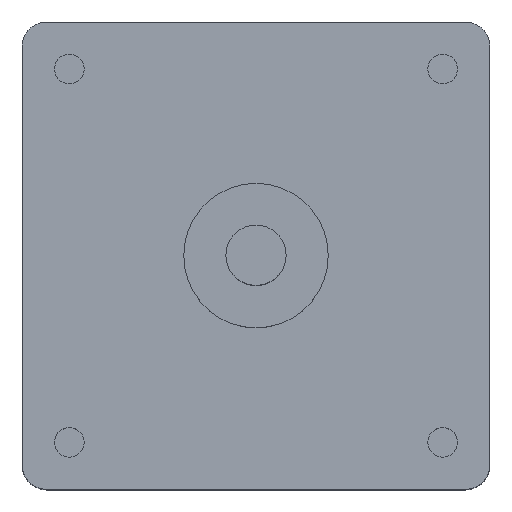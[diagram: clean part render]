
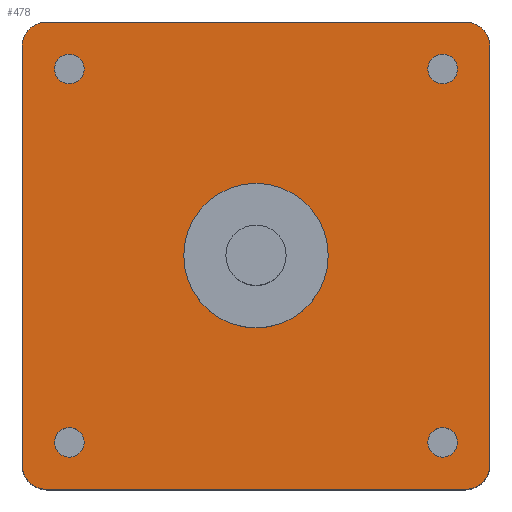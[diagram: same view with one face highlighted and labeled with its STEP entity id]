
A CAD part, top view. The second image highlights one B-rep face of the part: STEP entity #478.
In plain terms, the highlighted planar face has unit normal (0, 0, 1).
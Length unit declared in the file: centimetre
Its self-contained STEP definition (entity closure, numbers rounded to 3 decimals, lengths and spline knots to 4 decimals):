
#174=VERTEX_POINT('',#1709);
#176=VERTEX_POINT('',#1715);
#178=VERTEX_POINT('',#1721);
#180=VERTEX_POINT('',#1727);
#184=VERTEX_POINT('',#1739);
#201=VERTEX_POINT('',#1791);
#202=VERTEX_POINT('',#1793);
#203=VERTEX_POINT('',#1797);
#204=VERTEX_POINT('',#1801);
#205=VERTEX_POINT('',#1805);
#206=VERTEX_POINT('',#1810);
#207=VERTEX_POINT('',#1814);
#208=VERTEX_POINT('',#1818);
#210=EDGE_CURVE('',#174,#174,#594,.T.);
#212=EDGE_CURVE('',#176,#176,#596,.T.);
#214=EDGE_CURVE('',#178,#178,#598,.T.);
#216=EDGE_CURVE('',#180,#180,#600,.T.);
#220=EDGE_CURVE('',#184,#184,#604,.T.);
#246=EDGE_CURVE('',#201,#202,#621,.T.);
#249=EDGE_CURVE('',#203,#201,#670,.T.);
#251=EDGE_CURVE('',#204,#203,#622,.T.);
#253=EDGE_CURVE('',#205,#204,#673,.T.);
#254=EDGE_CURVE('',#202,#206,#674,.T.);
#256=EDGE_CURVE('',#206,#207,#623,.T.);
#258=EDGE_CURVE('',#207,#208,#677,.T.);
#260=EDGE_CURVE('',#208,#205,#624,.T.);
#352=ORIENTED_EDGE('',*,*,#210,.T.);
#353=ORIENTED_EDGE('',*,*,#212,.T.);
#354=ORIENTED_EDGE('',*,*,#214,.T.);
#355=ORIENTED_EDGE('',*,*,#216,.T.);
#356=ORIENTED_EDGE('',*,*,#220,.T.);
#357=ORIENTED_EDGE('',*,*,#251,.F.);
#358=ORIENTED_EDGE('',*,*,#253,.F.);
#359=ORIENTED_EDGE('',*,*,#260,.F.);
#360=ORIENTED_EDGE('',*,*,#258,.F.);
#361=ORIENTED_EDGE('',*,*,#256,.F.);
#362=ORIENTED_EDGE('',*,*,#254,.F.);
#363=ORIENTED_EDGE('',*,*,#246,.F.);
#364=ORIENTED_EDGE('',*,*,#249,.F.);
#401=EDGE_LOOP('',(#352));
#402=EDGE_LOOP('',(#353));
#403=EDGE_LOOP('',(#354));
#404=EDGE_LOOP('',(#355));
#405=EDGE_LOOP('',(#356));
#406=EDGE_LOOP('',(#357,#358,#359,#360,#361,#362,#363,#364));
#443=FACE_BOUND('',#401,.T.);
#444=FACE_BOUND('',#402,.T.);
#445=FACE_BOUND('',#403,.T.);
#446=FACE_BOUND('',#404,.T.);
#447=FACE_BOUND('',#405,.T.);
#448=FACE_BOUND('',#406,.T.);
#478=ADVANCED_FACE('',(#443,#444,#445,#446,#447,#448),#1324,.T.);
#594=CIRCLE('',#1189,0.123);
#596=CIRCLE('',#1193,0.123);
#598=CIRCLE('',#1197,0.123);
#600=CIRCLE('',#1201,0.123);
#604=CIRCLE('',#1209,0.6);
#621=CIRCLE('',#1236,0.2);
#622=CIRCLE('',#1239,0.2);
#623=CIRCLE('',#1244,0.2);
#624=CIRCLE('',#1247,0.2);
#670=LINE('',#1798,#1296);
#673=LINE('',#1806,#1299);
#674=LINE('',#1809,#1300);
#677=LINE('',#1817,#1303);
#1189=AXIS2_PLACEMENT_3D('',#1708,#1438,#1439);
#1193=AXIS2_PLACEMENT_3D('',#1714,#1445,#1446);
#1197=AXIS2_PLACEMENT_3D('',#1720,#1452,#1453);
#1201=AXIS2_PLACEMENT_3D('',#1726,#1459,#1460);
#1209=AXIS2_PLACEMENT_3D('',#1738,#1473,#1474);
#1236=AXIS2_PLACEMENT_3D('',#1792,#1531,#1532);
#1239=AXIS2_PLACEMENT_3D('',#1802,#1540,#1541);
#1244=AXIS2_PLACEMENT_3D('',#1813,#1551,#1552);
#1247=AXIS2_PLACEMENT_3D('',#1821,#1559,#1560);
#1248=AXIS2_PLACEMENT_3D('',#1822,#1561,$);
#1296=VECTOR('',#1536,1.);
#1299=VECTOR('',#1544,1.);
#1300=VECTOR('',#1547,1.);
#1303=VECTOR('',#1555,1.);
#1324=PLANE('',#1248);
#1438=DIRECTION('',(0.,0.,-1.));
#1439=DIRECTION('',(0.,0.123,0.));
#1445=DIRECTION('',(0.,0.,-1.));
#1446=DIRECTION('',(0.,0.123,0.));
#1452=DIRECTION('',(0.,0.,-1.));
#1453=DIRECTION('',(0.,0.123,0.));
#1459=DIRECTION('',(0.,0.,-1.));
#1460=DIRECTION('',(0.,0.123,0.));
#1473=DIRECTION('',(0.,0.,-1.));
#1474=DIRECTION('',(0.6,0.,0.));
#1531=DIRECTION('',(0.,0.,-1.));
#1532=DIRECTION('',(0.2,0.,0.));
#1536=DIRECTION('',(-1.,0.,0.));
#1540=DIRECTION('',(0.,0.,-1.));
#1541=DIRECTION('',(0.2,0.,0.));
#1544=DIRECTION('',(0.,-1.,0.));
#1547=DIRECTION('',(0.,1.,0.));
#1551=DIRECTION('',(0.,0.,-1.));
#1552=DIRECTION('',(0.2,0.,0.));
#1555=DIRECTION('',(1.,0.,0.));
#1559=DIRECTION('',(0.,0.,-1.));
#1560=DIRECTION('',(0.2,0.,0.));
#1561=DIRECTION('',(0.,0.,1.));
#1708=CARTESIAN_POINT('',(-3.49,0.39,3.21));
#1709=CARTESIAN_POINT('',(-3.49,0.513,3.21));
#1714=CARTESIAN_POINT('',(-0.39,0.39,3.21));
#1715=CARTESIAN_POINT('',(-0.39,0.5129,3.21));
#1720=CARTESIAN_POINT('',(-0.39,3.49,3.21));
#1721=CARTESIAN_POINT('',(-0.39,3.6129,3.21));
#1726=CARTESIAN_POINT('',(-3.49,3.49,3.21));
#1727=CARTESIAN_POINT('',(-3.49,3.6129,3.21));
#1738=CARTESIAN_POINT('',(-1.94,1.94,3.21));
#1739=CARTESIAN_POINT('',(-1.34,1.94,3.21));
#1791=CARTESIAN_POINT('',(-3.68,0.,3.21));
#1792=CARTESIAN_POINT('',(-3.68,0.2,3.21));
#1793=CARTESIAN_POINT('',(-3.88,0.2,3.21));
#1797=CARTESIAN_POINT('',(-0.2,0.,3.21));
#1798=CARTESIAN_POINT('',(-3.68,0.,3.21));
#1801=CARTESIAN_POINT('',(0.,0.2,3.21));
#1802=CARTESIAN_POINT('',(-0.2,0.2,3.21));
#1805=CARTESIAN_POINT('',(0.,3.68,3.21));
#1806=CARTESIAN_POINT('',(0.,0.2,3.21));
#1809=CARTESIAN_POINT('',(-3.88,3.68,3.21));
#1810=CARTESIAN_POINT('',(-3.88,3.68,3.21));
#1813=CARTESIAN_POINT('',(-3.68,3.68,3.21));
#1814=CARTESIAN_POINT('',(-3.68,3.88,3.21));
#1817=CARTESIAN_POINT('',(-0.2,3.88,3.21));
#1818=CARTESIAN_POINT('',(-0.2,3.88,3.21));
#1821=CARTESIAN_POINT('',(-0.2,3.68,3.21));
#1822=CARTESIAN_POINT('',(-1.94,1.94,3.21));
